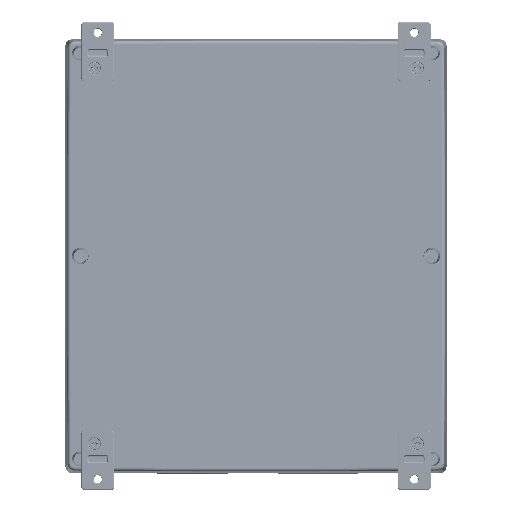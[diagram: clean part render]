
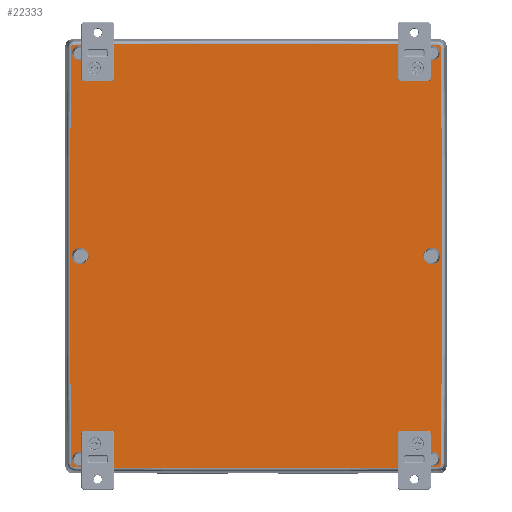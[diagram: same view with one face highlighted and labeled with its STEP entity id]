
A CAD part, top view. The second image highlights one B-rep face of the part: STEP entity #22333.
In plain terms, the highlighted planar face has unit normal (0, 0, 1).
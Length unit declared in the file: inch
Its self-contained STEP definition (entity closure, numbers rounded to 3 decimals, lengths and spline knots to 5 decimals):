
#1202=CARTESIAN_POINT('',(6.98051,0.,5.063));
#1203=VERTEX_POINT('',#1202);
#1204=CARTESIAN_POINT('',(6.66555,0.0,5.063));
#1205=DIRECTION('',(0.0,0.0,-1.0));
#1206=DIRECTION('',(-1.0,0.0,0.0));
#1207=AXIS2_PLACEMENT_3D('',#1204,#1205,#1206);
#1208=CIRCLE('',#1207,0.31496);
#1209=EDGE_CURVE('',#1203,#1203,#1208,.T.);
#1239=CARTESIAN_POINT('',(-6.35059,0.,5.063));
#1240=VERTEX_POINT('',#1239);
#1241=CARTESIAN_POINT('',(-6.66555,0.0,5.063));
#1242=DIRECTION('',(0.0,0.0,-1.0));
#1243=DIRECTION('',(-1.0,0.0,0.0));
#1244=AXIS2_PLACEMENT_3D('',#1241,#1242,#1243);
#1245=CIRCLE('',#1244,0.31496);
#1246=EDGE_CURVE('',#1240,#1240,#1245,.T.);
#1276=CARTESIAN_POINT('',(6.97217,-7.6972,5.063));
#1277=VERTEX_POINT('',#1276);
#1278=CARTESIAN_POINT('',(6.69657,-7.6972,5.063));
#1279=DIRECTION('',(0.0,0.0,-1.0));
#1280=DIRECTION('',(-1.0,0.0,0.0));
#1281=AXIS2_PLACEMENT_3D('',#1278,#1279,#1280);
#1282=CIRCLE('',#1281,0.27559);
#1283=EDGE_CURVE('',#1277,#1277,#1282,.T.);
#1313=CARTESIAN_POINT('',(-6.42098,-7.6972,5.063));
#1314=VERTEX_POINT('',#1313);
#1315=CARTESIAN_POINT('',(-6.69657,-7.6972,5.063));
#1316=DIRECTION('',(0.0,0.0,-1.0));
#1317=DIRECTION('',(-1.0,0.0,0.0));
#1318=AXIS2_PLACEMENT_3D('',#1315,#1316,#1317);
#1319=CIRCLE('',#1318,0.27559);
#1320=EDGE_CURVE('',#1314,#1314,#1319,.T.);
#1350=CARTESIAN_POINT('',(6.97217,7.6972,5.063));
#1351=VERTEX_POINT('',#1350);
#1352=CARTESIAN_POINT('',(6.69657,7.6972,5.063));
#1353=DIRECTION('',(0.0,0.0,-1.0));
#1354=DIRECTION('',(-1.0,0.0,0.0));
#1355=AXIS2_PLACEMENT_3D('',#1352,#1353,#1354);
#1356=CIRCLE('',#1355,0.27559);
#1357=EDGE_CURVE('',#1351,#1351,#1356,.T.);
#1387=CARTESIAN_POINT('',(-6.42098,7.6972,5.063));
#1388=VERTEX_POINT('',#1387);
#1389=CARTESIAN_POINT('',(-6.69657,7.6972,5.063));
#1390=DIRECTION('',(0.0,0.0,-1.0));
#1391=DIRECTION('',(-1.0,0.0,0.0));
#1392=AXIS2_PLACEMENT_3D('',#1389,#1390,#1391);
#1393=CIRCLE('',#1392,0.27559);
#1394=EDGE_CURVE('',#1388,#1388,#1393,.T.);
#21933=CARTESIAN_POINT('',(-7.01689,-7.89348,5.063));
#21934=VERTEX_POINT('',#21933);
#21943=CARTESIAN_POINT('',(-6.89321,-8.01731,5.063));
#21944=VERTEX_POINT('',#21943);
#21952=CARTESIAN_POINT('',(-6.89321,-8.01731,5.063));
#21953=CARTESIAN_POINT('',(-6.91156,-8.01712,5.063));
#21954=CARTESIAN_POINT('',(-6.94843,-8.00833,5.063));
#21955=CARTESIAN_POINT('',(-7.00015,-7.96709,5.063));
#21956=CARTESIAN_POINT('',(-7.01664,-7.92101,5.063));
#21957=CARTESIAN_POINT('',(-7.01689,-7.89348,5.063));
#21958=B_SPLINE_CURVE_WITH_KNOTS('',3,(#21952,#21953,#21954,#21955,#21956,#21957),.UNSPECIFIED.,.F.,.U.,(4,1,1,4),(0.0,0.13982,0.27963,0.48936),.UNSPECIFIED.);
#21959=EDGE_CURVE('',#21944,#21934,#21958,.T.);
#21969=CARTESIAN_POINT('',(6.89321,-8.01731,5.063));
#21970=VERTEX_POINT('',#21969);
#21978=CARTESIAN_POINT('',(0.0,654.70325,5.063));
#21979=DIRECTION('',(0.0,0.0,-1.0));
#21980=DIRECTION('',(0.0,-1.0,0.0));
#21981=AXIS2_PLACEMENT_3D('',#21978,#21979,#21980);
#21982=CIRCLE('',#21981,662.75641);
#21983=EDGE_CURVE('',#21970,#21944,#21982,.T.);
#21995=CARTESIAN_POINT('',(-7.01689,7.89348,5.063));
#21996=VERTEX_POINT('',#21995);
#22014=CARTESIAN_POINT('',(851.91825,0.0,5.063));
#22015=DIRECTION('',(0.0,0.0,-1.0));
#22016=DIRECTION('',(-1.0,0.0,0.0));
#22017=AXIS2_PLACEMENT_3D('',#22014,#22015,#22016);
#22018=CIRCLE('',#22017,858.97141);
#22019=EDGE_CURVE('',#21934,#21996,#22018,.T.);
#22057=CARTESIAN_POINT('',(7.01689,-7.89348,5.063));
#22058=VERTEX_POINT('',#22057);
#22066=CARTESIAN_POINT('',(7.01689,-7.89348,5.063));
#22067=CARTESIAN_POINT('',(7.01664,-7.92101,5.063));
#22068=CARTESIAN_POINT('',(7.00015,-7.96709,5.063));
#22069=CARTESIAN_POINT('',(6.94845,-8.00833,5.063));
#22070=CARTESIAN_POINT('',(6.91156,-8.01712,5.063));
#22071=CARTESIAN_POINT('',(6.89321,-8.01731,5.063));
#22072=B_SPLINE_CURVE_WITH_KNOTS('',3,(#22066,#22067,#22068,#22069,#22070,#22071),.UNSPECIFIED.,.F.,.U.,(4,1,1,4),(0.0,0.20973,0.34954,0.48936),.UNSPECIFIED.);
#22073=EDGE_CURVE('',#22058,#21970,#22072,.T.);
#22109=CARTESIAN_POINT('',(-6.89321,8.01731,5.063));
#22110=VERTEX_POINT('',#22109);
#22130=CARTESIAN_POINT('',(-7.01689,7.89348,5.063));
#22131=CARTESIAN_POINT('',(-7.01664,7.92101,5.063));
#22132=CARTESIAN_POINT('',(-7.00015,7.96709,5.063));
#22133=CARTESIAN_POINT('',(-6.94843,8.00833,5.063));
#22134=CARTESIAN_POINT('',(-6.91156,8.01712,5.063));
#22135=CARTESIAN_POINT('',(-6.89321,8.01731,5.063));
#22136=B_SPLINE_CURVE_WITH_KNOTS('',3,(#22130,#22131,#22132,#22133,#22134,#22135),.UNSPECIFIED.,.F.,.U.,(4,1,1,4),(0.,0.20973,0.34954,0.48936),.UNSPECIFIED.);
#22137=EDGE_CURVE('',#21996,#22110,#22136,.T.);
#22147=CARTESIAN_POINT('',(7.01689,7.89348,5.063));
#22148=VERTEX_POINT('',#22147);
#22156=CARTESIAN_POINT('',(-851.91825,0.0,5.063));
#22157=DIRECTION('',(0.0,0.0,-1.0));
#22158=DIRECTION('',(1.0,0.0,0.0));
#22159=AXIS2_PLACEMENT_3D('',#22156,#22157,#22158);
#22160=CIRCLE('',#22159,858.97141);
#22161=EDGE_CURVE('',#22148,#22058,#22160,.T.);
#22173=CARTESIAN_POINT('',(6.89321,8.01731,5.063));
#22174=VERTEX_POINT('',#22173);
#22192=CARTESIAN_POINT('',(0.0,-654.70325,5.063));
#22193=DIRECTION('',(0.0,0.0,-1.0));
#22194=DIRECTION('',(0.0,1.0,0.0));
#22195=AXIS2_PLACEMENT_3D('',#22192,#22193,#22194);
#22196=CIRCLE('',#22195,662.75641);
#22197=EDGE_CURVE('',#22110,#22174,#22196,.T.);
#22244=CARTESIAN_POINT('',(6.89321,8.01731,5.063));
#22245=CARTESIAN_POINT('',(6.91156,8.01712,5.063));
#22246=CARTESIAN_POINT('',(6.94845,8.00833,5.063));
#22247=CARTESIAN_POINT('',(7.00015,7.96709,5.063));
#22248=CARTESIAN_POINT('',(7.01664,7.92101,5.063));
#22249=CARTESIAN_POINT('',(7.01689,7.89348,5.063));
#22250=B_SPLINE_CURVE_WITH_KNOTS('',3,(#22244,#22245,#22246,#22247,#22248,#22249),.UNSPECIFIED.,.F.,.U.,(4,1,1,4),(0.,0.13982,0.27963,0.48936),.UNSPECIFIED.);
#22251=EDGE_CURVE('',#22174,#22148,#22250,.T.);
#22256=CARTESIAN_POINT('',(0.,0.,5.063));
#22257=DIRECTION('',(0.0,0.0,1.0));
#22258=DIRECTION('',(1.0,0.0,0.0));
#22259=AXIS2_PLACEMENT_3D('',#22256,#22257,#22258);
#22260=PLANE('',#22259);
#22261=ORIENTED_EDGE('',*,*,#21959,.F.);
#22262=ORIENTED_EDGE('',*,*,#21983,.F.);
#22263=ORIENTED_EDGE('',*,*,#22073,.F.);
#22264=ORIENTED_EDGE('',*,*,#22161,.F.);
#22265=ORIENTED_EDGE('',*,*,#22251,.F.);
#22266=ORIENTED_EDGE('',*,*,#22197,.F.);
#22267=ORIENTED_EDGE('',*,*,#22137,.F.);
#22268=ORIENTED_EDGE('',*,*,#22019,.F.);
#22269=EDGE_LOOP('',(#22261,#22262,#22263,#22264,#22265,#22266,#22267,#22268));
#22270=FACE_OUTER_BOUND('',#22269,.T.);
#22271=ORIENTED_EDGE('',*,*,#1209,.T.);
#22272=EDGE_LOOP('',(#22271));
#22273=FACE_BOUND('',#22272,.T.);
#22274=ORIENTED_EDGE('',*,*,#1246,.T.);
#22275=EDGE_LOOP('',(#22274));
#22276=FACE_BOUND('',#22275,.T.);
#22277=ORIENTED_EDGE('',*,*,#1283,.T.);
#22278=EDGE_LOOP('',(#22277));
#22279=FACE_BOUND('',#22278,.T.);
#22280=ORIENTED_EDGE('',*,*,#1320,.T.);
#22281=EDGE_LOOP('',(#22280));
#22282=FACE_BOUND('',#22281,.T.);
#22283=ORIENTED_EDGE('',*,*,#1357,.T.);
#22284=EDGE_LOOP('',(#22283));
#22285=FACE_BOUND('',#22284,.T.);
#22286=ORIENTED_EDGE('',*,*,#1394,.T.);
#22287=EDGE_LOOP('',(#22286));
#22288=FACE_BOUND('',#22287,.T.);
#22289=CARTESIAN_POINT('',(-5.92815,-7.125,5.063));
#22290=VERTEX_POINT('',#22289);
#22291=CARTESIAN_POINT('',(-6.125,-7.125,5.063));
#22292=DIRECTION('',(0.0,0.0,-1.0));
#22293=DIRECTION('',(-1.0,0.0,0.0));
#22294=AXIS2_PLACEMENT_3D('',#22291,#22292,#22293);
#22295=CIRCLE('',#22294,0.19685);
#22296=EDGE_CURVE('',#22290,#22290,#22295,.T.);
#22297=ORIENTED_EDGE('',*,*,#22296,.T.);
#22298=EDGE_LOOP('',(#22297));
#22299=FACE_BOUND('',#22298,.T.);
#22300=CARTESIAN_POINT('',(6.32185,7.125,5.063));
#22301=VERTEX_POINT('',#22300);
#22302=CARTESIAN_POINT('',(6.125,7.125,5.063));
#22303=DIRECTION('',(0.0,0.0,-1.0));
#22304=DIRECTION('',(-1.0,0.0,0.0));
#22305=AXIS2_PLACEMENT_3D('',#22302,#22303,#22304);
#22306=CIRCLE('',#22305,0.19685);
#22307=EDGE_CURVE('',#22301,#22301,#22306,.T.);
#22308=ORIENTED_EDGE('',*,*,#22307,.T.);
#22309=EDGE_LOOP('',(#22308));
#22310=FACE_BOUND('',#22309,.T.);
#22311=CARTESIAN_POINT('',(-5.92815,7.125,5.063));
#22312=VERTEX_POINT('',#22311);
#22313=CARTESIAN_POINT('',(-6.125,7.125,5.063));
#22314=DIRECTION('',(0.0,0.0,-1.0));
#22315=DIRECTION('',(-1.0,0.0,0.0));
#22316=AXIS2_PLACEMENT_3D('',#22313,#22314,#22315);
#22317=CIRCLE('',#22316,0.19685);
#22318=EDGE_CURVE('',#22312,#22312,#22317,.T.);
#22319=ORIENTED_EDGE('',*,*,#22318,.T.);
#22320=EDGE_LOOP('',(#22319));
#22321=FACE_BOUND('',#22320,.T.);
#22322=CARTESIAN_POINT('',(6.32185,-7.125,5.063));
#22323=VERTEX_POINT('',#22322);
#22324=CARTESIAN_POINT('',(6.125,-7.125,5.063));
#22325=DIRECTION('',(0.0,0.0,-1.0));
#22326=DIRECTION('',(-1.0,0.0,0.0));
#22327=AXIS2_PLACEMENT_3D('',#22324,#22325,#22326);
#22328=CIRCLE('',#22327,0.19685);
#22329=EDGE_CURVE('',#22323,#22323,#22328,.T.);
#22330=ORIENTED_EDGE('',*,*,#22329,.T.);
#22331=EDGE_LOOP('',(#22330));
#22332=FACE_BOUND('',#22331,.T.);
#22333=ADVANCED_FACE('',(#22270,#22273,#22276,#22279,#22282,#22285,#22288,#22299,#22310,#22321,#22332),#22260,.T.);
